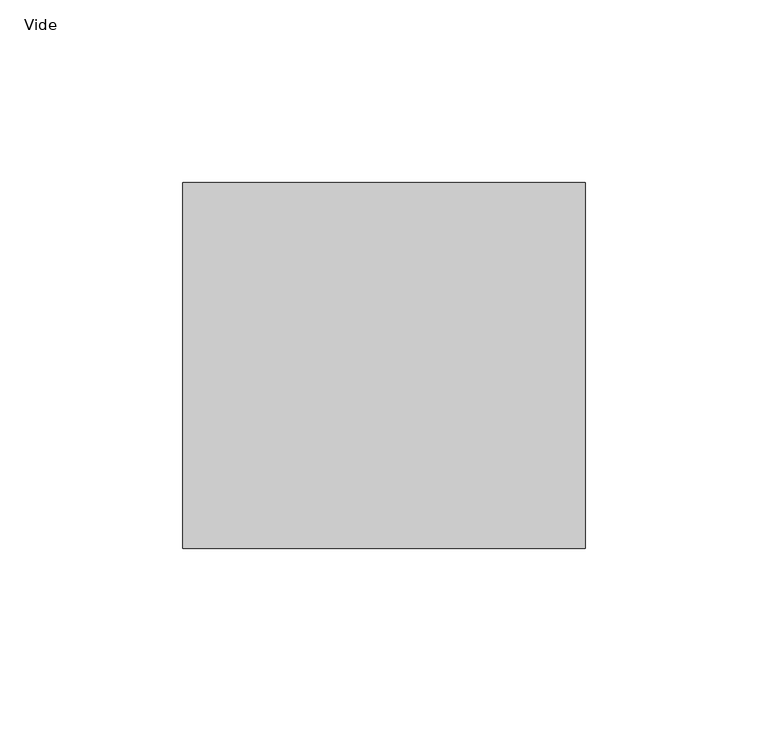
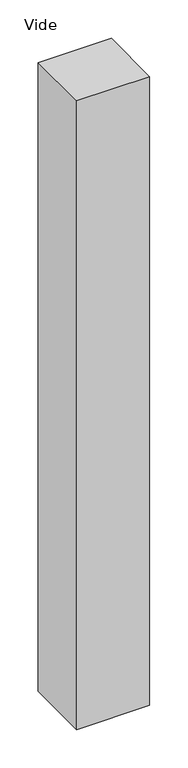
"""IFC4 building model written with IfcOpenShell, lengths in millimetres: plate geometry, Panneau système vide : Vide."""

import ifcopenshell
import ifcopenshell.guid

model = None  # the IFC model being written
_history = None  # IfcOwnerHistory: only IFC2X3 demands one
_inside = {}  # id of a spatial element -> (the spatial element, [elements in it])
_under = {}  # id of a project, library or spatial element -> (it, [spatial elements below it])
_declared = {}  # id of a project -> (the project, [libraries it declares])
_typed = {}  # id of a type object -> (the type object, [elements of that type])
_made_of = {}  # id of a material, layer set ... -> (it, [elements and type objects made of it])


def new_model(schema):
    """Start an empty IFC model of exactly this schema.

    Asked for "IFC4X3", IfcOpenShell would pick the latest addendum, in which some entities
    have other attributes; the version numbers below select the first issue.
    IFC2X3 requires an IfcOwnerHistory on every rooted entity: one is made here for all.
    """
    global model, _history
    if schema == "IFC4X3":
        model = ifcopenshell.file(schema_version=(4, 3, 0, 0))
    else:
        model = ifcopenshell.file(schema=schema)
    _inside.clear()
    _under.clear()
    _declared.clear()
    _typed.clear()
    _made_of.clear()
    _history = None
    if model.schema == "IFC2X3":
        org = make("IfcOrganization", Name="unknown")
        user = make(
            "IfcPersonAndOrganization",
            ThePerson=make("IfcPerson", FamilyName="unknown"),
            TheOrganization=org,
        )
        app = make(
            "IfcApplication",
            ApplicationDeveloper=org,
            Version="unknown",
            ApplicationFullName="unknown",
            ApplicationIdentifier="unknown",
        )
        _history = make(
            "IfcOwnerHistory",
            OwningUser=user,
            OwningApplication=app,
            ChangeAction="ADDED",
            CreationDate=0,
        )
    return model


def make(cls, **values):
    """One entity of the class cls with the attributes given. An attribute that is None is left unset."""
    return model.create_entity(
        cls, **{name: value for name, value in values.items() if value is not None}
    )


def rooted(cls, **values):
    """An entity with a GlobalId (a new one), such as an element, a storey or a relation."""
    return make(cls, GlobalId=ifcopenshell.guid.new(), OwnerHistory=_history, **values)


def si_unit(unit_type, name, prefix=None):
    """IfcSIUnit, for example si_unit("LENGTHUNIT", "METRE", prefix="MILLI")."""
    return make("IfcSIUnit", UnitType=unit_type, Prefix=prefix, Name=name)


def assignment(units):
    """IfcUnitAssignment: the units of a project."""
    return None if units is None else make("IfcUnitAssignment", Units=units)


def point(xyz):
    """IfcCartesianPoint."""
    return None if xyz is None else make("IfcCartesianPoint", Coordinates=xyz)


def direction(xyz):
    """IfcDirection."""
    return None if xyz is None else make("IfcDirection", DirectionRatios=xyz)


def frame(location, z_axis=None, x_axis=None):
    """IfcAxis2Placement3D, a coordinate frame: its origin and axes. An axis left out is left unset."""
    return make(
        "IfcAxis2Placement3D",
        Location=point(location),
        Axis=direction(z_axis),
        RefDirection=direction(x_axis),
    )


def origin():
    """The frame at (0, 0, 0) with its axes left unset."""
    return frame((0.0, 0.0, 0.0))


def origin_with_axes():
    """The frame at (0, 0, 0) with the z axis (0, 0, 1) and the x axis (1, 0, 0) written out."""
    return frame((0.0, 0.0, 0.0), z_axis=(0.0, 0.0, 1.0), x_axis=(1.0, 0.0, 0.0))


def place(relative_to, where):
    """IfcLocalPlacement: puts the frame where relative to a parent placement (None: the world)."""
    return make(
        "IfcLocalPlacement", PlacementRelTo=relative_to, RelativePlacement=where
    )


def context(
    kind, dimensions, precision=None, world=None, true_north=None, identifier=None
):
    """IfcGeometricRepresentationContext, for example the 3D "Model" context."""
    return make(
        "IfcGeometricRepresentationContext",
        ContextIdentifier=identifier,
        ContextType=kind,
        CoordinateSpaceDimension=dimensions,
        Precision=precision,
        WorldCoordinateSystem=world,
        TrueNorth=true_north,
    )


def project(units=None, contexts=None):
    """IfcProject with its units and contexts."""
    return rooted(
        "IfcProject",
        Name="project",
        RepresentationContexts=contexts,
        UnitsInContext=assignment(units),
    )


def spatial(cls, under=None, at=None, **own):
    """A site, building, storey or space (cls), placed at a placement, below another one or the project."""
    s = rooted(cls, ObjectPlacement=at, **own)
    if under is not None:
        _under.setdefault(under.id(), (under, []))[1].append(s)
    return s


def polyline(points):
    """IfcPolyline through the points."""
    return make("IfcPolyline", Points=[point(p) for p in points])


def outline(outer, holes=None, kind="AREA"):
    """IfcArbitraryClosedProfileDef: a profile drawn as a closed curve; with holes, ...WithVoids."""
    if holes is None:
        return make("IfcArbitraryClosedProfileDef", ProfileType=kind, OuterCurve=outer)
    return make(
        "IfcArbitraryProfileDefWithVoids",
        ProfileType=kind,
        OuterCurve=outer,
        InnerCurves=holes,
    )


def extrude(swept, where, along, depth):
    """IfcExtrudedAreaSolid: the profile swept, set in the frame where, extruded along a direction by depth."""
    return make(
        "IfcExtrudedAreaSolid",
        SweptArea=swept,
        Position=where,
        ExtrudedDirection=direction(along),
        Depth=depth,
    )


def shape(context_of_items, identifier, shape_type, items):
    """IfcShapeRepresentation: the items that make up one representation, for example the "Body"."""
    return make(
        "IfcShapeRepresentation",
        ContextOfItems=context_of_items,
        RepresentationIdentifier=identifier,
        RepresentationType=shape_type,
        Items=items,
    )


def source(mapping_origin, context_of_items, identifier, shape_type, items):
    """IfcRepresentationMap: a shape defined once, which mapped items show again and again."""
    return make(
        "IfcRepresentationMap",
        MappingOrigin=mapping_origin,
        MappedRepresentation=shape(context_of_items, identifier, shape_type, items),
    )


def transform(
    local_origin,
    x_axis=None,
    y_axis=None,
    z_axis=None,
    scale=None,
    scale2=None,
    scale3=None,
    uniform=True,
):
    """IfcCartesianTransformationOperator3D, or its non-uniform kind. x_axis, y_axis, z_axis: its Axis1, 2, 3."""
    if uniform:
        return make(
            "IfcCartesianTransformationOperator3D",
            Axis1=direction(x_axis),
            Axis2=direction(y_axis),
            LocalOrigin=point(local_origin),
            Scale=scale,
            Axis3=direction(z_axis),
        )
    return make(
        "IfcCartesianTransformationOperator3DnonUniform",
        Axis1=direction(x_axis),
        Axis2=direction(y_axis),
        LocalOrigin=point(local_origin),
        Scale=scale,
        Axis3=direction(z_axis),
        Scale2=scale2,
        Scale3=scale3,
    )


def mapped(mapping_source, mapping_target):
    """IfcMappedItem: shows the shape of a source again, moved by a transform."""
    return make(
        "IfcMappedItem", MappingSource=mapping_source, MappingTarget=mapping_target
    )


def made_of(thing, what):
    """Note that an element or type object is made of a material, layer set ...; save() writes the relation."""
    if what is not None:
        _made_of.setdefault(what.id(), (what, []))[1].append(thing)
    return thing


def element(
    cls,
    number,
    at=None,
    inside=None,
    cuts=None,
    type_object=None,
    material=None,
    context=None,
    identifier="Body",
    shape_type=None,
    held_by="IfcProductDefinitionShape",
    body=None,
    shapes=None,
    **own,
):
    """One element of the class cls, such as IfcWall. Its Tag is "e" and its number.

    at: its placement. inside: the storey or other place that contains it. cuts: it is an
    opening in that element (IfcRelVoidsElement). A single representation is given by context,
    identifier, shape_type and body (its items); several are given by shapes. held_by: the class
    of the entity that holds the representations. save() writes the other relations.
    """
    e = rooted(cls, Tag="e%d" % number, ObjectPlacement=at, **own)
    if body is not None:
        shapes = [shape(context, identifier, shape_type, body)]
    if shapes is not None:
        e.Representation = make(held_by, Representations=shapes)
    if inside is not None:
        _inside.setdefault(inside.id(), (inside, []))[1].append(e)
    if cuts is not None:
        rooted(
            "IfcRelVoidsElement", RelatingBuildingElement=cuts, RelatedOpeningElement=e
        )
    if type_object is not None:
        _typed.setdefault(type_object.id(), (type_object, []))[1].append(e)
    return made_of(e, material)


def aggregate(whole, parts):
    """IfcRelAggregates: a whole, such as a stair, and the parts it consists of."""
    return rooted("IfcRelAggregates", RelatingObject=whole, RelatedObjects=parts)


def save(model, path):
    """Write the relations noted so far, then the file.

    IfcRelAggregates (storeys below a building ...), IfcRelContainedInSpatialStructure (elements
    in a storey), IfcRelDefinesByType, IfcRelAssociatesMaterial and IfcRelDeclares: one each for
    every whole, place, type object, material and project.
    """
    for whole, parts in _under.values():
        aggregate(whole, parts)
    for where, things in _inside.values():
        rooted(
            "IfcRelContainedInSpatialStructure",
            RelatedElements=things,
            RelatingStructure=where,
        )
    for kind, things in _typed.values():
        rooted("IfcRelDefinesByType", RelatedObjects=things, RelatingType=kind)
    for what, things in _made_of.values():
        rooted("IfcRelAssociatesMaterial", RelatedObjects=things, RelatingMaterial=what)
    for by, libraries in _declared.values():
        rooted("IfcRelDeclares", RelatingContext=by, RelatedDefinitions=libraries)
    model.write(path)


def vide_65d77da9(model_context):
    return source(origin(), model_context, "Body", "SweptSolid", [
        extrude(outline(polyline([(55.0, 50.0), (-55.0, 50.0), (-55.0, 150.0), (55.0, 150.0), (55.0, 50.0)])), origin_with_axes(), (0.0, 0.0, 1.0), 1000.0),
    ])


if __name__ == "__main__":
    model = new_model("IFC4")
    model_context = context("Model", 3, world=origin())
    ifc_project = project(units=[si_unit("LENGTHUNIT", "METRE", prefix="MILLI")], contexts=[model_context])
    site = spatial("IfcSite", under=ifc_project)
    building = spatial("IfcBuilding", under=site)
    placement = place(None, origin())
    vide_shape = vide_65d77da9(model_context)
    element("IfcPlate", 1, ObjectType="Panneau système vide : Vide", at=placement, inside=building, context=model_context, shape_type="MappedRepresentation", body=[
        mapped(vide_shape, transform((0.0, 0.0, 0.0), x_axis=(1.0, 0.0, 0.0), y_axis=(0.0, 1.0, 0.0), z_axis=(0.0, 0.0, 1.0))),
    ])
    save(model, "model.ifc")
